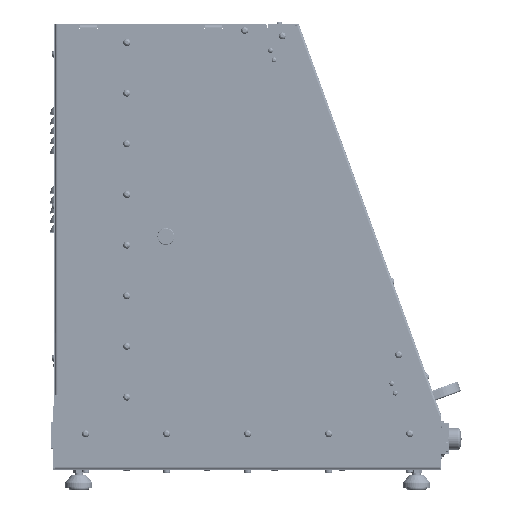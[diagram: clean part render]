
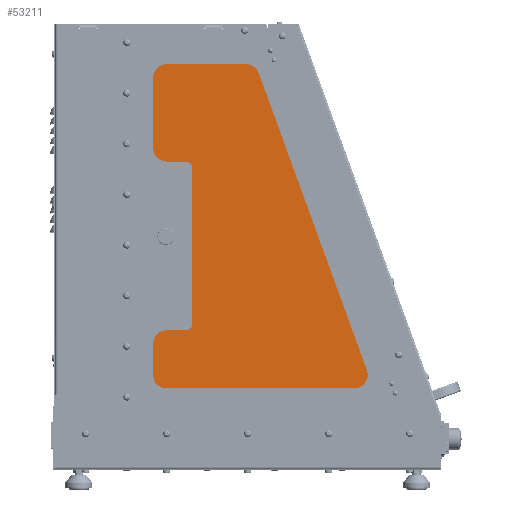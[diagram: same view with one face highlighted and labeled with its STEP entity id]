
A CAD part, top view. The second image highlights one B-rep face of the part: STEP entity #53211.
In plain terms, the highlighted planar face has unit normal (0, 0, 1).
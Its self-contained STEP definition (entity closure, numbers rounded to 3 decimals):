
#53054 = VERTEX_POINT ( 'NONE', #231987 ) ;
#53061 = EDGE_CURVE ( 'NONE', #53054, #53065, #232056, .T. ) ;
#53065 = VERTEX_POINT ( 'NONE', #232051 ) ;
#53100 = EDGE_CURVE ( 'NONE', #53101, #53105, #232085, .T. ) ;
#53101 = VERTEX_POINT ( 'NONE', #232080 ) ;
#53105 = VERTEX_POINT ( 'NONE', #232079 ) ;
#53143 = VERTEX_POINT ( 'NONE', #232101 ) ;
#53149 = EDGE_CURVE ( 'NONE', #53143, #53054, #232163, .T. ) ;
#53204 = EDGE_CURVE ( 'NONE', #53065, #53263, #232228, .T. ) ;
#53211 = ADVANCED_FACE ( 'NONE', ( #232220, #232219 ), #232217, .F. ) ;
#53213 = EDGE_LOOP ( 'NONE', ( #53406, #53269 ) ) ;
#53225 = VERTEX_POINT ( 'NONE', #232201 ) ;
#53231 = EDGE_CURVE ( 'NONE', #53225, #53143, #232199, .T. ) ;
#53263 = VERTEX_POINT ( 'NONE', #232295 ) ;
#53269 = ORIENTED_EDGE ( 'NONE', *, *, #53100, .T. ) ;
#53273 = EDGE_LOOP ( 'NONE', ( #53280, #53282, #53288, #53293, #53299 ) ) ;
#53280 = ORIENTED_EDGE ( 'NONE', *, *, #53061, .F. ) ;
#53282 = ORIENTED_EDGE ( 'NONE', *, *, #53149, .F. ) ;
#53288 = ORIENTED_EDGE ( 'NONE', *, *, #53231, .F. ) ;
#53293 = ORIENTED_EDGE ( 'NONE', *, *, #53317, .F. ) ;
#53299 = ORIENTED_EDGE ( 'NONE', *, *, #53204, .F. ) ;
#53317 = EDGE_CURVE ( 'NONE', #53263, #53225, #232321, .T. ) ;
#53406 = ORIENTED_EDGE ( 'NONE', *, *, #53410, .T. ) ;
#53410 = EDGE_CURVE ( 'NONE', #53105, #53101, #226793, .T. ) ;
#226793 = CIRCLE ( 'NONE', #227062, 17.5 ) ;
#227062 = AXIS2_PLACEMENT_3D ( 'NONE', #232100, #232420, #232419 ) ;
#231987 = CARTESIAN_POINT ( 'NONE',  ( -94., 149., 259.5 ) ) ;
#232051 = CARTESIAN_POINT ( 'NONE',  ( -94., 107., 259.5 ) ) ;
#232053 = DIRECTION ( 'NONE',  ( 0., -1., 0. ) ) ;
#232054 = VECTOR ( 'NONE', #232053, 1000. ) ;
#232055 = CARTESIAN_POINT ( 'NONE',  ( -94., 149., 259.5 ) ) ;
#232056 = LINE ( 'NONE', #232055, #232054 ) ;
#232079 = CARTESIAN_POINT ( 'NONE',  ( -423.5, 342., 259.5 ) ) ;
#232080 = CARTESIAN_POINT ( 'NONE',  ( -388.5, 342., 259.5 ) ) ;
#232081 = DIRECTION ( 'NONE',  ( -1., 0., 0. ) ) ;
#232082 = DIRECTION ( 'NONE',  ( 0., 0., -1. ) ) ;
#232083 = CARTESIAN_POINT ( 'NONE',  ( -406., 342., 259.5 ) ) ;
#232084 = AXIS2_PLACEMENT_3D ( 'NONE', #232083, #232082, #232081 ) ;
#232085 = CIRCLE ( 'NONE', #232084, 17.5 ) ;
#232100 = CARTESIAN_POINT ( 'NONE',  ( -406., 342., 259.5 ) ) ;
#232101 = CARTESIAN_POINT ( 'NONE',  ( -260.698, 607., 259.5 ) ) ;
#232160 = DIRECTION ( 'NONE',  ( 0.342, -0.94, 0. ) ) ;
#232161 = VECTOR ( 'NONE', #232160, 1000. ) ;
#232162 = CARTESIAN_POINT ( 'NONE',  ( -260.698, 607., 259.5 ) ) ;
#232163 = LINE ( 'NONE', #232162, #232161 ) ;
#232195 = DIRECTION ( 'NONE',  ( 1., 0., 0. ) ) ;
#232196 = VECTOR ( 'NONE', #232195, 1000. ) ;
#232198 = CARTESIAN_POINT ( 'NONE',  ( -449., 607., 259.5 ) ) ;
#232199 = LINE ( 'NONE', #232198, #232196 ) ;
#232201 = CARTESIAN_POINT ( 'NONE',  ( -449., 607., 259.5 ) ) ;
#232213 = DIRECTION ( 'NONE',  ( -1., 0., 0. ) ) ;
#232214 = DIRECTION ( 'NONE',  ( 0., 0., -1. ) ) ;
#232215 = CARTESIAN_POINT ( 'NONE',  ( -94., 107., 259.5 ) ) ;
#232216 = AXIS2_PLACEMENT_3D ( 'NONE', #232215, #232214, #232213 ) ;
#232217 = PLANE ( 'NONE',  #232216 ) ;
#232219 = FACE_OUTER_BOUND ( 'NONE', #53273, .T. ) ;
#232220 = FACE_BOUND ( 'NONE', #53213, .T. ) ;
#232225 = DIRECTION ( 'NONE',  ( -1., 0., 0. ) ) ;
#232226 = VECTOR ( 'NONE', #232225, 1000. ) ;
#232227 = CARTESIAN_POINT ( 'NONE',  ( -94., 107., 259.5 ) ) ;
#232228 = LINE ( 'NONE', #232227, #232226 ) ;
#232295 = CARTESIAN_POINT ( 'NONE',  ( -449., 107., 259.5 ) ) ;
#232318 = DIRECTION ( 'NONE',  ( 0., 1., 0. ) ) ;
#232319 = VECTOR ( 'NONE', #232318, 1000. ) ;
#232320 = CARTESIAN_POINT ( 'NONE',  ( -449., 107., 259.5 ) ) ;
#232321 = LINE ( 'NONE', #232320, #232319 ) ;
#232419 = DIRECTION ( 'NONE',  ( -1., 0., 0. ) ) ;
#232420 = DIRECTION ( 'NONE',  ( 0., 0., -1. ) ) ;
